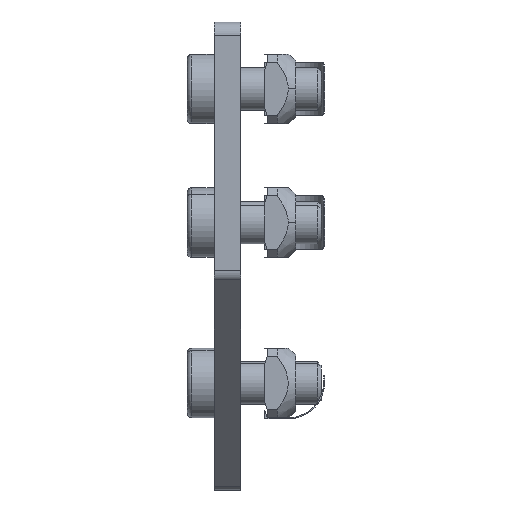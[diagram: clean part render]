
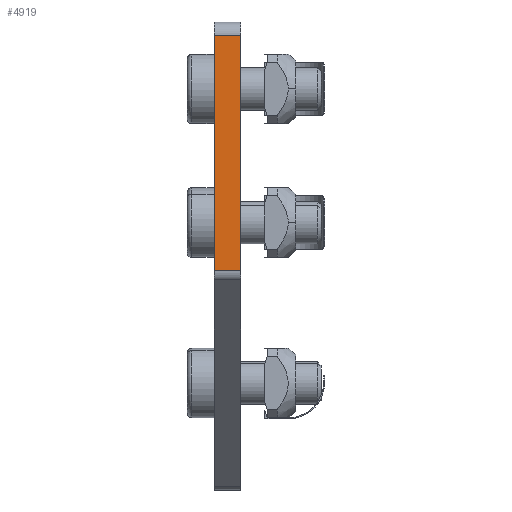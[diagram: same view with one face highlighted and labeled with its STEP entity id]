
A CAD part, left-side view. The second image highlights one B-rep face of the part: STEP entity #4919.
In plain terms, the highlighted planar face has unit normal (-1, 0, 0).
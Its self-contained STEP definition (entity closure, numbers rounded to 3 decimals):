
#419 = FACE_OUTER_BOUND ( 'NONE', #5128, .T. ) ;
#577 = CARTESIAN_POINT ( 'NONE',  ( 506.547, 904.327, 1301.285 ) ) ;
#647 = DIRECTION ( 'NONE',  ( 0., 0., -1. ) ) ;
#780 = AXIS2_PLACEMENT_3D ( 'NONE', #2009, #3327, #647 ) ;
#873 = VECTOR ( 'NONE', #7294, 1000. ) ;
#1649 = ORIENTED_EDGE ( 'NONE', *, *, #7998, .T. ) ;
#2009 = CARTESIAN_POINT ( 'NONE',  ( 506.547, 904.327, 1301.285 ) ) ;
#2882 = LINE ( 'NONE', #6220, #7368 ) ;
#2965 = LINE ( 'NONE', #4318, #4540 ) ;
#3327 = DIRECTION ( 'NONE',  ( 1., 0., 0. ) ) ;
#3766 = EDGE_CURVE ( 'NONE', #5726, #4132, #6038, .T. ) ;
#4040 = EDGE_CURVE ( 'NONE', #5726, #4255, #2965, .T. ) ;
#4128 = LINE ( 'NONE', #6909, #8120 ) ;
#4132 = VERTEX_POINT ( 'NONE', #6201 ) ;
#4255 = VERTEX_POINT ( 'NONE', #7167 ) ;
#4318 = CARTESIAN_POINT ( 'NONE',  ( 506.547, 904.327, 1301.285 ) ) ;
#4323 = DIRECTION ( 'NONE',  ( 0., 0., 1. ) ) ;
#4540 = VECTOR ( 'NONE', #5067, 1000. ) ;
#4902 = CARTESIAN_POINT ( 'NONE',  ( 506.547, 899.327, 1345.249 ) ) ;
#4919 = ADVANCED_FACE ( 'NONE', ( #419 ), #8790, .F. ) ;
#5067 = DIRECTION ( 'NONE',  ( 0., -1., 0. ) ) ;
#5128 = EDGE_LOOP ( 'NONE', ( #1649, #9043, #6543, #5633 ) ) ;
#5633 = ORIENTED_EDGE ( 'NONE', *, *, #4040, .T. ) ;
#5726 = VERTEX_POINT ( 'NONE', #577 ) ;
#5768 = EDGE_CURVE ( 'NONE', #4132, #6573, #2882, .T. ) ;
#6038 = LINE ( 'NONE', #7425, #873 ) ;
#6201 = CARTESIAN_POINT ( 'NONE',  ( 506.547, 904.327, 1345.249 ) ) ;
#6220 = CARTESIAN_POINT ( 'NONE',  ( 506.547, 904.327, 1345.249 ) ) ;
#6543 = ORIENTED_EDGE ( 'NONE', *, *, #3766, .F. ) ;
#6573 = VERTEX_POINT ( 'NONE', #4902 ) ;
#6909 = CARTESIAN_POINT ( 'NONE',  ( 506.547, 899.327, 1301.285 ) ) ;
#7167 = CARTESIAN_POINT ( 'NONE',  ( 506.547, 899.327, 1301.285 ) ) ;
#7294 = DIRECTION ( 'NONE',  ( 0., 0., 1. ) ) ;
#7368 = VECTOR ( 'NONE', #7874, 1000. ) ;
#7425 = CARTESIAN_POINT ( 'NONE',  ( 506.547, 904.327, 1301.285 ) ) ;
#7874 = DIRECTION ( 'NONE',  ( 0., -1., 0. ) ) ;
#7998 = EDGE_CURVE ( 'NONE', #4255, #6573, #4128, .T. ) ;
#8120 = VECTOR ( 'NONE', #4323, 1000. ) ;
#8790 = PLANE ( 'NONE',  #780 ) ;
#9043 = ORIENTED_EDGE ( 'NONE', *, *, #5768, .F. ) ;
